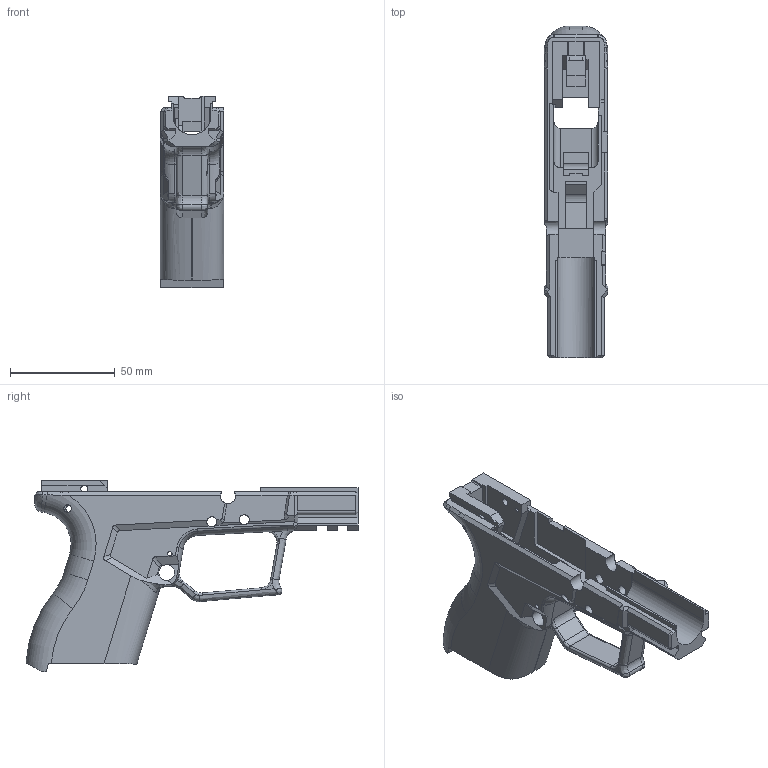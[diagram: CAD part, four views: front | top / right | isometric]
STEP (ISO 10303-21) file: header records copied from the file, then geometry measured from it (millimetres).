
FILE_DESCRIPTION(/* description */ (''),/* implementation_level */ '2;1');
FILE_NAME(/* name */ 'C:/AWCY/XD_Proj/RELEASE_03-31-22/STL/XD_subcompact v11 2_25_2022 v1.step',/* time_stamp */ '2022-03-30T22:27:37-04:00',/* author */ (''),/* organization */ (''),/* preprocessor_version */ 'ST-DEVELOPER v18.1',/* originating_system */ 'Autodesk Translation Framework v10.13.0.1454',/* authorisation */ '');
FILE_SCHEMA (('AUTOMOTIVE_DESIGN { 1 0 10303 214 3 1 1 }'));
Length unit declared in the file: millimetre
Products named in the file (1): XD_subcompact v11 2_25_2022
Bounding box: 30.25 x 158.31 x 91.2 mm (x, y, z)
Volume: 82739.9 mm3; surface area: 39806.3 mm2
Topology: 1 solids, 1 shells, 353 faces, 1013 edges, 642 vertices
Faces by surface type: plane 208, cylinder 73, bspline 50, torus 18, cone 4
Full cylindrical faces by diameter (mm): 1.9 x1, 2.15 x2, 3.4 x2, 3.54 x2, 4.76 x2, 4.8 x1, 4.9 x1, 7.5 x1
Entity records: 15361 total; most frequent: CARTESIAN_POINT 6196, ORIENTED_EDGE 2022, DIRECTION 1777, EDGE_CURVE 1011, LINE 655, VECTOR 655, VERTEX_POINT 642, AXIS2_PLACEMENT_3D 561
